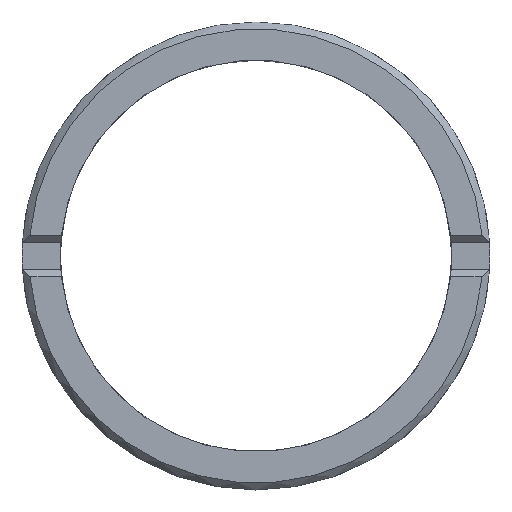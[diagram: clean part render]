
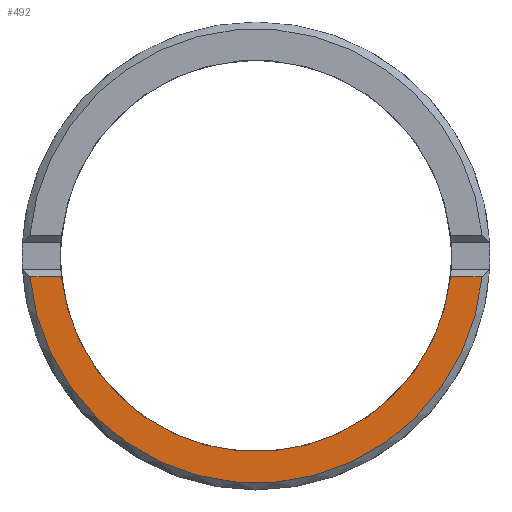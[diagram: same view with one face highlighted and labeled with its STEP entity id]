
A CAD part, top view. The second image highlights one B-rep face of the part: STEP entity #492.
In plain terms, the highlighted planar face has unit normal (0, 0, 1).
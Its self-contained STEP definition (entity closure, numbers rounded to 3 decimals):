
#11 = VECTOR ( 'NONE', #490, 1000. ) ;
#32 = LINE ( 'NONE', #259, #11 ) ;
#33 = VECTOR ( 'NONE', #112, 1000. ) ;
#59 = VERTEX_POINT ( 'NONE', #659 ) ;
#97 = AXIS2_PLACEMENT_3D ( 'NONE', #428, #661, #143 ) ;
#112 = DIRECTION ( 'NONE',  ( -1., 0., 0. ) ) ;
#126 = DIRECTION ( 'NONE',  ( 1., 0., 0. ) ) ;
#135 = CARTESIAN_POINT ( 'NONE',  ( 8.452, -0.9, 2. ) ) ;
#143 = DIRECTION ( 'NONE',  ( 1., 0., 0. ) ) ;
#179 = ORIENTED_EDGE ( 'NONE', *, *, #368, .F. ) ;
#198 = CARTESIAN_POINT ( 'NONE',  ( 0., 0., 2. ) ) ;
#205 = PLANE ( 'NONE',  #97 ) ;
#210 = AXIS2_PLACEMENT_3D ( 'NONE', #405, #642, #126 ) ;
#233 = AXIS2_PLACEMENT_3D ( 'NONE', #198, #421, #653 ) ;
#250 = VERTEX_POINT ( 'NONE', #560 ) ;
#259 = CARTESIAN_POINT ( 'NONE',  ( -10.142, -0.9, 2. ) ) ;
#268 = EDGE_LOOP ( 'NONE', ( #179, #396, #559, #398 ) ) ;
#307 = EDGE_CURVE ( 'NONE', #540, #444, #390, .T. ) ;
#325 = CARTESIAN_POINT ( 'NONE',  ( 9.819, -0.9, 2. ) ) ;
#368 = EDGE_CURVE ( 'NONE', #250, #444, #533, .T. ) ;
#390 = LINE ( 'NONE', #627, #33 ) ;
#396 = ORIENTED_EDGE ( 'NONE', *, *, #483, .T. ) ;
#398 = ORIENTED_EDGE ( 'NONE', *, *, #307, .T. ) ;
#405 = CARTESIAN_POINT ( 'NONE',  ( 0., 0., 2. ) ) ;
#421 = DIRECTION ( 'NONE',  ( 0., 0., 1. ) ) ;
#428 = CARTESIAN_POINT ( 'NONE',  ( 0., 0., 2. ) ) ;
#440 = EDGE_CURVE ( 'NONE', #59, #540, #554, .T. ) ;
#444 = VERTEX_POINT ( 'NONE', #135 ) ;
#483 = EDGE_CURVE ( 'NONE', #250, #59, #32, .T. ) ;
#490 = DIRECTION ( 'NONE',  ( -1., 0., 0. ) ) ;
#492 = ADVANCED_FACE ( 'NONE', ( #716 ), #205, .T. ) ;
#533 = CIRCLE ( 'NONE', #210, 8.5 ) ;
#540 = VERTEX_POINT ( 'NONE', #325 ) ;
#554 = CIRCLE ( 'NONE', #233, 9.86 ) ;
#559 = ORIENTED_EDGE ( 'NONE', *, *, #440, .T. ) ;
#560 = CARTESIAN_POINT ( 'NONE',  ( -8.452, -0.9, 2. ) ) ;
#627 = CARTESIAN_POINT ( 'NONE',  ( 8.479, -0.9, 2. ) ) ;
#642 = DIRECTION ( 'NONE',  ( 0., 0., 1. ) ) ;
#653 = DIRECTION ( 'NONE',  ( 1., 0., 0. ) ) ;
#659 = CARTESIAN_POINT ( 'NONE',  ( -9.819, -0.9, 2. ) ) ;
#661 = DIRECTION ( 'NONE',  ( 0., 0., 1. ) ) ;
#716 = FACE_OUTER_BOUND ( 'NONE', #268, .T. ) ;
